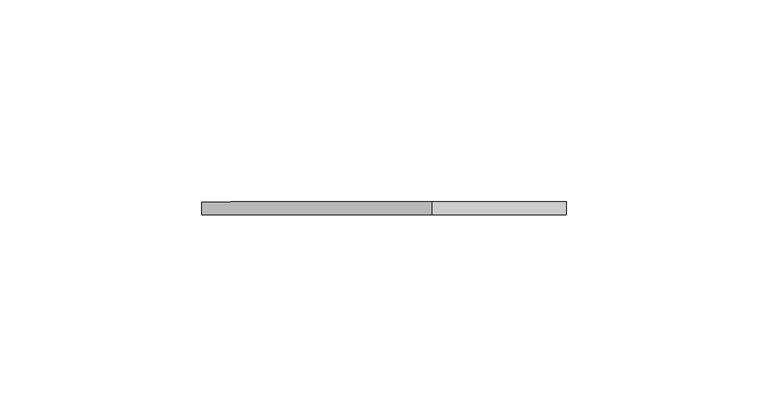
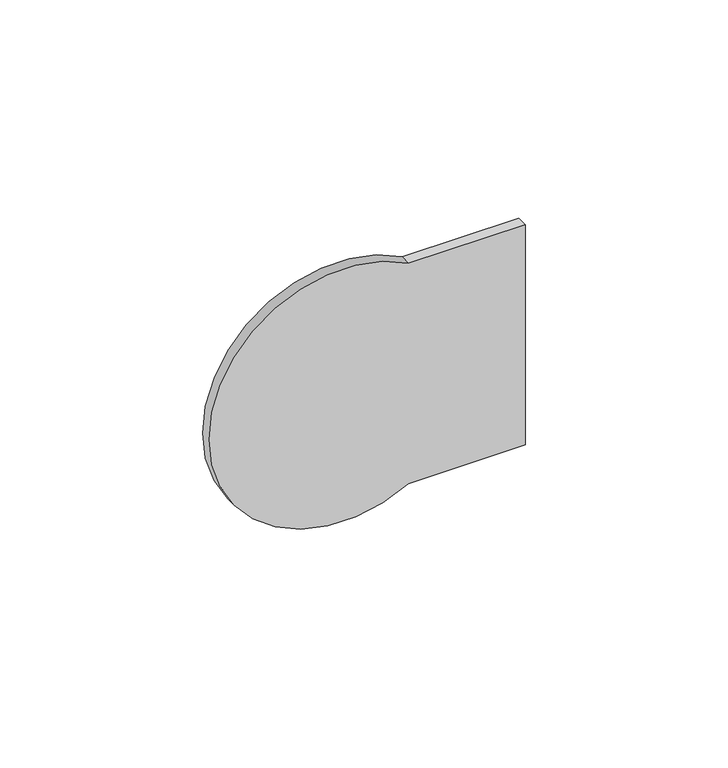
"""IFC4 building model written with IfcOpenShell, lengths in millimetres: proxy geometry, Dispencer-Toilet Paper-2D : Dispencer-Toilet Paper-2D."""

from ifc_helpers import new_model, si_unit, point, frame, frame_2d, origin, place, context, project, spatial, polyline, circle_curve, trimmed, segment, composite_curve, outline, extrude, source, transform, mapped, element, save


def specialty_equipment_fe47f8b8(model_context):
    return source(origin(), model_context, "Body", "SweptSolid", [
        extrude(outline(composite_curve([segment(polyline([(723.9, 0.0), (723.9, -33.2698082)]), True, "CONTINUOUS"), segment(trimmed(circle_curve(frame_2d((690.7111546, -52.0020162)), 38.1103014), [point((723.9, -33.2698082))], [point((657.5223092, -33.2698082))], False, "CARTESIAN"), True, "CONTINUOUS"), segment(polyline([(657.5223092, -33.2698082), (657.5223092, 0.0), (723.9, 0.0)]), True, "CONTINUOUS")], self_intersect=False)), frame((0.0, 0.0, 0.0), z_axis=(0.0, 1.0, 0.0), x_axis=(0.0, 0.0, 1.0)), (0.0, 0.0, 1.0), 3.175),
    ])


if __name__ == "__main__":
    model = new_model("IFC4")
    model_context = context("Model", 3, world=origin())
    ifc_project = project(units=[si_unit("LENGTHUNIT", "METRE", prefix="MILLI")], contexts=[model_context])
    site = spatial("IfcSite", under=ifc_project)
    building = spatial("IfcBuilding", under=site)
    placement = place(None, origin())
    specialty_equipment_shape = specialty_equipment_fe47f8b8(model_context)
    element("IfcBuildingElementProxy", 1, Name="Dispencer-Toilet Paper-2D : Dispencer-Toilet Paper-2D", ObjectType="Dispencer-Toilet Paper-2D : Dispencer-Toilet Paper-2D", at=placement, inside=building, context=model_context, shape_type="MappedRepresentation", body=[
        mapped(specialty_equipment_shape, transform((0.0, 0.0, 0.0), x_axis=(1.0, 0.0, 0.0), y_axis=(0.0, 1.0, 0.0), z_axis=(0.0, 0.0, 1.0))),
    ])
    save(model, "model.ifc")
